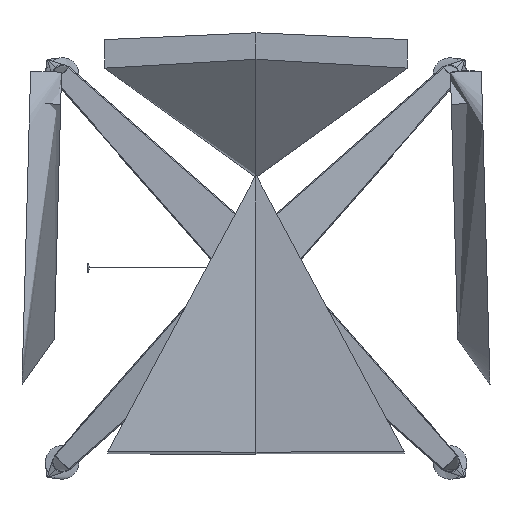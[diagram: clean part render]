
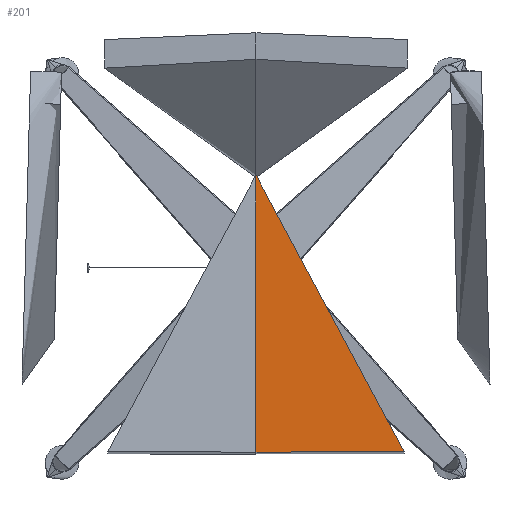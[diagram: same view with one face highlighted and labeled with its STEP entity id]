
A CAD part, top view. The second image highlights one B-rep face of the part: STEP entity #201.
In plain terms, the highlighted free-form (B-spline) face has degree [3, 3] with [4, 9] control points.
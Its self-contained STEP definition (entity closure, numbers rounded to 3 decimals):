
#88=B_SPLINE_SURFACE_WITH_KNOTS('',3,3,((#11323,#11324,#11325,#11326,#11327,
#11328,#11329,#11330,#11331),(#11332,#11333,#11334,#11335,#11336,#11337,
#11338,#11339,#11340),(#11341,#11342,#11343,#11344,#11345,#11346,#11347,
#11348,#11349),(#11350,#11351,#11352,#11353,#11354,#11355,#11356,#11357,
#11358)),.UNSPECIFIED.,.F.,.F.,.F.,(4,4),(4,1,1,1,1,1,4),(0.,313.738),
(-441.798,-368.165,-294.532,-220.899,
-147.266,-73.633,0.),.UNSPECIFIED.);
#201=ADVANCED_FACE('',(#363),#88,.T.);
#363=FACE_OUTER_BOUND('',#525,.T.);
#525=EDGE_LOOP('',(#962,#963,#964,#965,#966,#967));
#962=ORIENTED_EDGE('',*,*,#1445,.T.);
#963=ORIENTED_EDGE('',*,*,#1449,.T.);
#964=ORIENTED_EDGE('',*,*,#1442,.T.);
#965=ORIENTED_EDGE('',*,*,#1451,.T.);
#966=ORIENTED_EDGE('',*,*,#1450,.F.);
#967=ORIENTED_EDGE('',*,*,#1452,.F.);
#1442=EDGE_CURVE('',#1907,#1906,#2229,.T.);
#1445=EDGE_CURVE('',#1910,#1908,#2232,.T.);
#1449=EDGE_CURVE('',#1908,#1907,#2236,.T.);
#1450=EDGE_CURVE('',#1911,#1912,#2237,.T.);
#1451=EDGE_CURVE('',#1906,#1912,#2238,.T.);
#1452=EDGE_CURVE('',#1910,#1911,#2239,.T.);
#1906=VERTEX_POINT('',#13705);
#1907=VERTEX_POINT('',#13706);
#1908=VERTEX_POINT('',#13707);
#1910=VERTEX_POINT('',#13709);
#1911=VERTEX_POINT('',#13710);
#1912=VERTEX_POINT('',#13711);
#2229=B_SPLINE_CURVE_WITH_KNOTS('',3,(#14069,#14070,#14071,#14072,#14073,
#14074,#14075,#14076,#14077),.UNSPECIFIED.,.F.,.F.,(4,1,1,1,1,1,4),(0.,
73.633,147.266,220.899,294.532,368.165,
441.798),.UNSPECIFIED.);
#2232=B_SPLINE_CURVE_WITH_KNOTS('',3,(#14094,#14095,#14096,#14097,#14098,
#14099,#14100,#14101,#14102,#14103,#14104,#14105,#14106,#14107,#14108,#14109,
#14110,#14111,#14112,#14113,#14114,#14115,#14116,#14117,#14118),
 .UNSPECIFIED.,.F.,.F.,(4,1,1,1,1,1,1,1,1,1,1,1,1,1,2,1,1,1,1,1,1,4),(0.,
4.583,9.166,13.749,18.332,22.915,
27.498,36.664,54.995,73.327,91.659,
100.825,109.991,119.157,120.717,128.322,
146.654,164.986,183.318,201.649,219.981,
238.313),.UNSPECIFIED.);
#2236=B_SPLINE_CURVE_WITH_KNOTS('',3,(#14225,#14226,#14227,#14228),
 .UNSPECIFIED.,.F.,.F.,(4,4),(-146.56,0.),.UNSPECIFIED.);
#2237=B_SPLINE_CURVE_WITH_KNOTS('',3,(#14229,#14230,#14231,#14232,#14233),
 .UNSPECIFIED.,.F.,.F.,(4,1,4),(298.037,368.165,441.798),
 .UNSPECIFIED.);
#2238=B_SPLINE_CURVE_WITH_KNOTS('',3,(#14234,#14235,#14236,#14237,#14238,
#14239,#14240),.UNSPECIFIED.,.F.,.F.,(4,3,4),(0.,146.56,313.738),
 .UNSPECIFIED.);
#2239=B_SPLINE_CURVE_WITH_KNOTS('',3,(#14241,#14242,#14243,#14244,#14245,
#14246,#14247,#14248),.UNSPECIFIED.,.F.,.F.,(4,1,1,1,1,4),(67.257,
73.633,147.266,220.899,294.532,298.037),
 .UNSPECIFIED.);
#11323=CARTESIAN_POINT('',(0.,104.914,445.761));
#11324=CARTESIAN_POINT('',(72.274,104.914,445.761));
#11325=CARTESIAN_POINT('',(139.814,105.391,455.316));
#11326=CARTESIAN_POINT('',(167.339,105.784,463.164));
#11327=CARTESIAN_POINT('',(204.305,105.447,456.434));
#11328=CARTESIAN_POINT('',(243.614,104.723,441.949));
#11329=CARTESIAN_POINT('',(201.158,103.488,417.242));
#11330=CARTESIAN_POINT('',(109.984,102.476,397.004));
#11331=CARTESIAN_POINT('',(0.,102.476,397.004));
#11332=CARTESIAN_POINT('',(0.,0.465,450.983));
#11333=CARTESIAN_POINT('',(72.274,0.465,450.983));
#11334=CARTESIAN_POINT('',(139.814,0.943,460.538));
#11335=CARTESIAN_POINT('',(167.339,1.335,468.386));
#11336=CARTESIAN_POINT('',(204.305,0.999,461.657));
#11337=CARTESIAN_POINT('',(243.614,0.275,447.172));
#11338=CARTESIAN_POINT('',(201.158,-0.961,422.465));
#11339=CARTESIAN_POINT('',(99.643,-2.234,397.004));
#11340=CARTESIAN_POINT('',(0.,-2.234,397.004));
#11341=CARTESIAN_POINT('',(0.,-103.985,456.205));
#11342=CARTESIAN_POINT('',(72.274,-103.985,456.205));
#11343=CARTESIAN_POINT('',(139.814,-103.507,465.761));
#11344=CARTESIAN_POINT('',(167.339,-103.115,473.608));
#11345=CARTESIAN_POINT('',(204.305,-103.451,466.879));
#11346=CARTESIAN_POINT('',(243.614,-104.175,452.394));
#11347=CARTESIAN_POINT('',(201.158,-105.411,427.687));
#11348=CARTESIAN_POINT('',(89.303,-106.945,397.004));
#11349=CARTESIAN_POINT('',(0.,-106.945,397.004));
#11350=CARTESIAN_POINT('',(0.,-208.433,461.428));
#11351=CARTESIAN_POINT('',(72.274,-208.433,461.428));
#11352=CARTESIAN_POINT('',(139.814,-207.955,470.983));
#11353=CARTESIAN_POINT('',(167.339,-207.563,478.831));
#11354=CARTESIAN_POINT('',(204.305,-207.899,472.102));
#11355=CARTESIAN_POINT('',(243.614,-208.623,457.617));
#11356=CARTESIAN_POINT('',(201.158,-209.859,432.91));
#11357=CARTESIAN_POINT('',(78.963,-211.654,397.004));
#11358=CARTESIAN_POINT('',(0.,-211.654,397.004));
#13705=CARTESIAN_POINT('',(0.,104.914,445.761));
#13706=CARTESIAN_POINT('',(0.,102.476,397.004));
#13707=CARTESIAN_POINT('',(0.,-44.267,397.004));
#13709=CARTESIAN_POINT('',(167.387,-210.276,424.555));
#13710=CARTESIAN_POINT('',(167.387,-207.686,476.358));
#13711=CARTESIAN_POINT('',(0.,-208.433,461.428));
#14069=CARTESIAN_POINT('',(0.,102.476,397.004));
#14070=CARTESIAN_POINT('',(109.984,102.476,397.004));
#14071=CARTESIAN_POINT('',(201.158,103.488,417.242));
#14072=CARTESIAN_POINT('',(243.614,104.723,441.949));
#14073=CARTESIAN_POINT('',(204.305,105.447,456.434));
#14074=CARTESIAN_POINT('',(167.339,105.784,463.164));
#14075=CARTESIAN_POINT('',(139.814,105.391,455.316));
#14076=CARTESIAN_POINT('',(72.274,104.914,445.761));
#14077=CARTESIAN_POINT('',(0.,104.914,445.761));
#14094=CARTESIAN_POINT('',(167.387,-210.276,424.555));
#14095=CARTESIAN_POINT('',(166.318,-209.227,424.154));
#14096=CARTESIAN_POINT('',(164.186,-207.135,423.363));
#14097=CARTESIAN_POINT('',(161.002,-204.009,422.204));
#14098=CARTESIAN_POINT('',(157.833,-200.896,421.074));
#14099=CARTESIAN_POINT('',(154.675,-197.794,419.973));
#14100=CARTESIAN_POINT('',(151.529,-194.701,418.901));
#14101=CARTESIAN_POINT('',(147.346,-190.588,417.508));
#14102=CARTESIAN_POINT('',(140.052,-183.411,415.169));
#14103=CARTESIAN_POINT('',(129.681,-173.193,412.104));
#14104=CARTESIAN_POINT('',(117.217,-160.891,408.858));
#14105=CARTESIAN_POINT('',(106.735,-150.528,406.501));
#14106=CARTESIAN_POINT('',(98.246,-142.122,404.819));
#14107=CARTESIAN_POINT('',(91.814,-135.748,403.657));
#14108=CARTESIAN_POINT('',(87.106,-131.079,402.889));
#14109=CARTESIAN_POINT('',(84.548,-128.54,402.496));
#14110=CARTESIAN_POINT('',(82.359,-126.368,402.164));
#14111=CARTESIAN_POINT('',(76.166,-120.22,401.267));
#14112=CARTESIAN_POINT('',(65.604,-109.722,399.983));
#14113=CARTESIAN_POINT('',(52.491,-96.669,398.778));
#14114=CARTESIAN_POINT('',(39.38,-83.601,397.918));
#14115=CARTESIAN_POINT('',(26.265,-70.514,397.36));
#14116=CARTESIAN_POINT('',(13.142,-57.406,397.061));
#14117=CARTESIAN_POINT('',(4.383,-48.65,397.004));
#14118=CARTESIAN_POINT('',(0.,-44.267,397.004));
#14225=CARTESIAN_POINT('',(0.,-44.267,397.004));
#14226=CARTESIAN_POINT('',(0.,4.647,397.004));
#14227=CARTESIAN_POINT('',(0.,53.562,397.004));
#14228=CARTESIAN_POINT('',(0.,102.476,397.004));
#14229=CARTESIAN_POINT('',(167.387,-207.686,476.358));
#14230=CARTESIAN_POINT('',(157.263,-207.706,475.963));
#14231=CARTESIAN_POINT('',(138.206,-207.966,470.756));
#14232=CARTESIAN_POINT('',(72.274,-208.433,461.428));
#14233=CARTESIAN_POINT('',(0.,-208.433,461.428));
#14234=CARTESIAN_POINT('',(0.,104.914,445.761));
#14235=CARTESIAN_POINT('',(0.,56.122,448.2));
#14236=CARTESIAN_POINT('',(0.,7.329,450.64));
#14237=CARTESIAN_POINT('',(0.,-41.463,453.079));
#14238=CARTESIAN_POINT('',(0.,-97.12,455.862));
#14239=CARTESIAN_POINT('',(0.,-152.777,458.645));
#14240=CARTESIAN_POINT('',(0.,-208.433,461.428));
#14241=CARTESIAN_POINT('',(167.387,-210.276,424.555));
#14242=CARTESIAN_POINT('',(170.993,-210.217,425.747));
#14243=CARTESIAN_POINT('',(214.085,-209.482,440.432));
#14244=CARTESIAN_POINT('',(243.614,-208.623,457.617));
#14245=CARTESIAN_POINT('',(204.305,-207.899,472.102));
#14246=CARTESIAN_POINT('',(179.075,-207.669,476.695));
#14247=CARTESIAN_POINT('',(167.893,-207.685,476.378));
#14248=CARTESIAN_POINT('',(167.387,-207.686,476.358));
